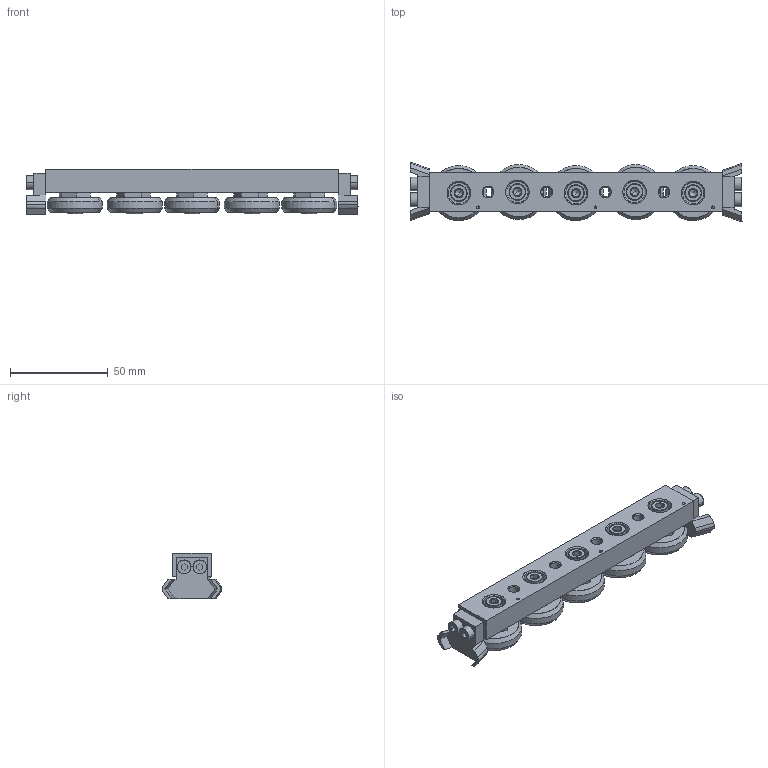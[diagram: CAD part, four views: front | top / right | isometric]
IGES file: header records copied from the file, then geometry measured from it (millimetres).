
Start section: SolidWorks IGES file using analytic representation for surfaces
Global section: file name: C:\Users\liam_\OneDrive\Documents\WORK\Work for WixRoyd\Job Files\J-00018 - L1918-L1963 LCompact Rail\L1935_v2\L1935.CSW35_v2\L1935.CSW35_v2_20190522_IGES\L1935.CSW35-150-2RST.igs; native system: SolidWorks 2017; preprocessor: SolidWorks 2017; author: liam_; date: 190528.222930; units: millimetre
Bounding box: 170 x 30.56 x 23.2 mm (x, y, z)
Surface area: 27866.5 mm2 (no closed solid volume)
Topology: 0 solids, 0 shells, 514 faces, 6077 edges, 6047 vertices
Faces by surface type: revolution 275, bspline 239
